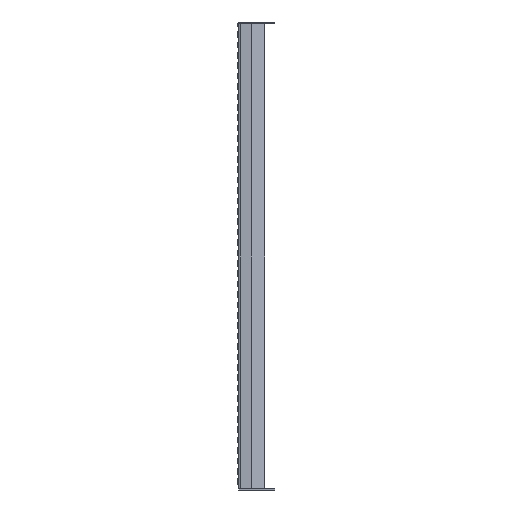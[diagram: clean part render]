
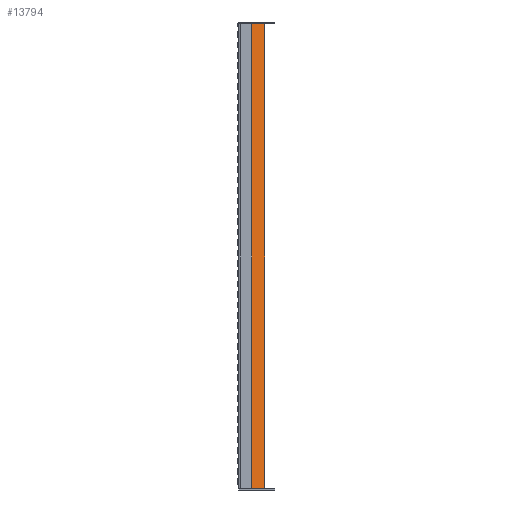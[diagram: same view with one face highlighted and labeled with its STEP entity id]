
A CAD part, left-side view. The second image highlights one B-rep face of the part: STEP entity #13794.
In plain terms, the highlighted planar face has unit normal (-0.94, -0.342, 0).
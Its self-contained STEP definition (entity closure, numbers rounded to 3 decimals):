
#2027=FACE_OUTER_BOUND('',#3116,.T.);
#3116=EDGE_LOOP('',(#11865,#11866,#11867,#11868));
#4155=LINE('',#26591,#5443);
#4174=LINE('',#26638,#5462);
#4176=LINE('',#26644,#5464);
#4180=LINE('',#26651,#5468);
#5443=VECTOR('',#18492,10.);
#5462=VECTOR('',#18535,10.);
#5464=VECTOR('',#18541,10.);
#5468=VECTOR('',#18549,10.);
#6840=VERTEX_POINT('',#26588);
#6841=VERTEX_POINT('',#26590);
#6857=VERTEX_POINT('',#26637);
#6859=VERTEX_POINT('',#26643);
#8544=EDGE_CURVE('',#6841,#6840,#4155,.T.);
#8568=EDGE_CURVE('',#6840,#6857,#4174,.T.);
#8571=EDGE_CURVE('',#6859,#6841,#4176,.T.);
#8575=EDGE_CURVE('',#6857,#6859,#4180,.T.);
#11865=ORIENTED_EDGE('',*,*,#8568,.T.);
#11866=ORIENTED_EDGE('',*,*,#8575,.T.);
#11867=ORIENTED_EDGE('',*,*,#8571,.T.);
#11868=ORIENTED_EDGE('',*,*,#8544,.T.);
#12897=PLANE('',#15218);
#13794=ADVANCED_FACE('',(#2027),#12897,.T.);
#15218=AXIS2_PLACEMENT_3D('',#26650,#18547,#18548);
#18492=DIRECTION('',(-0.342,0.94,0.));
#18535=DIRECTION('',(0.,0.,-1.));
#18541=DIRECTION('',(0.,0.,1.));
#18547=DIRECTION('center_axis',(-0.94,-0.342,0.));
#18548=DIRECTION('ref_axis',(0.,0.,1.));
#18549=DIRECTION('',(0.342,-0.94,0.));
#26588=CARTESIAN_POINT('',(0.196,-25.539,894.));
#26590=CARTESIAN_POINT('',(9.099,-50.,894.));
#26591=CARTESIAN_POINT('',(0.,-25.,894.));
#26637=CARTESIAN_POINT('',(0.196,-25.539,0.));
#26638=CARTESIAN_POINT('',(0.196,-25.539,0.));
#26643=CARTESIAN_POINT('',(9.099,-50.,0.));
#26644=CARTESIAN_POINT('',(9.099,-50.,0.));
#26650=CARTESIAN_POINT('Origin',(9.099,-50.,0.));
#26651=CARTESIAN_POINT('',(0.,-25.,0.));
